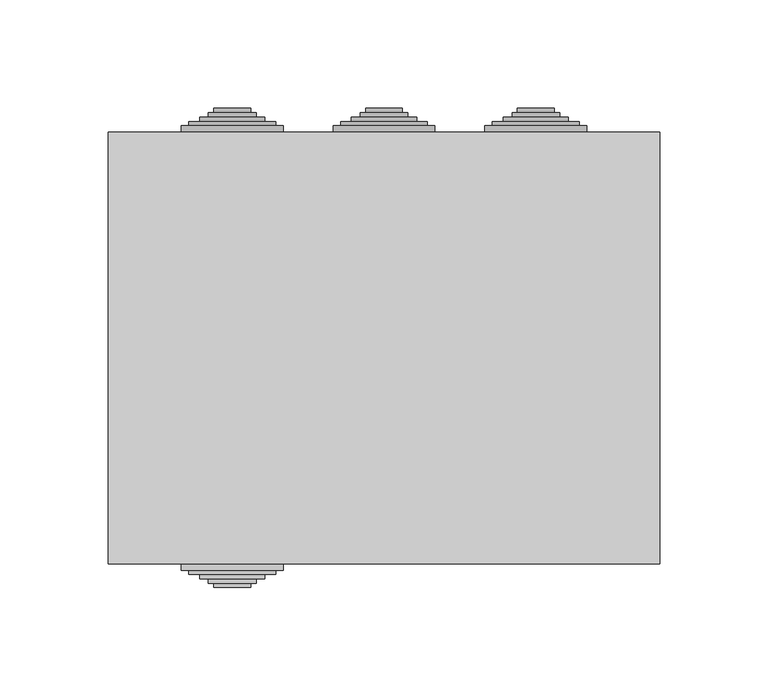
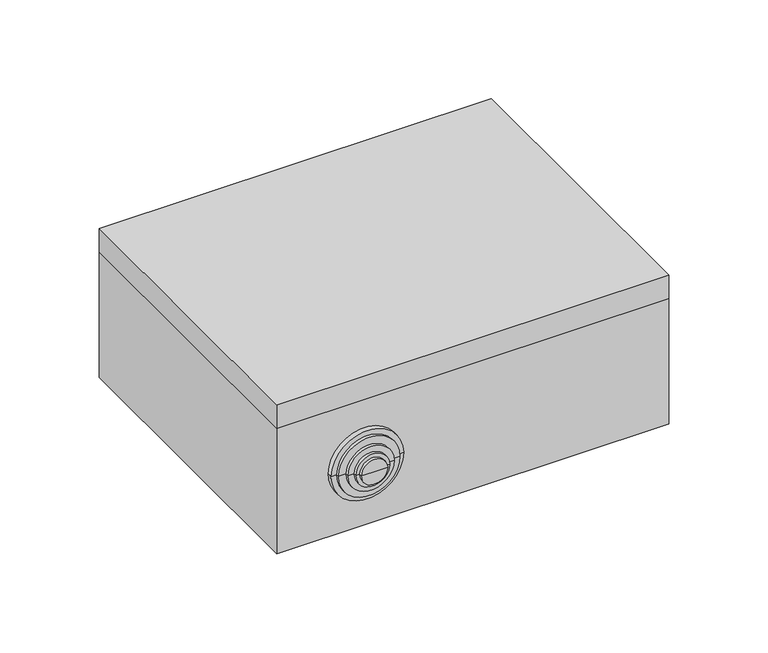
"""IFC4 building model written with IfcOpenShell, lengths in millimetres: cable carrier fitting geometry, КНС_КоробкаОтветвительнаяСКабельнымиВводами_10_IP55_DKC : с 10 кабельными вводами д.32мм, IP55, 240х190х90мм."""

from ifc_helpers import new_model, si_unit, frame, origin, place, context, project, spatial, polyline, circle_curve, faceted_brep, source, transform, mapped, element, save
from ifc_brep_helpers import plane_surface, cylinder_surface, revolved_surface, advanced_brep


def cable_carrier_fitting_17f0b756(model_context):
    return source(origin(), model_context, "Body", "SolidModel", [
        advanced_brep(
        [(-50.0, -97.5, 43.0), (-90.0, -97.5, 43.0), (-93.5, -97.5, 43.0), (-46.5, -97.5, 43.0), (-50.0, -99.5, 43.0), (-90.0, -99.5, 43.0), (-46.5, -99.5, 43.0), (-93.5, -99.5, 43.0), (-46.5, -102.5, 43.0), (-93.5, -102.5, 43.0), (-50.0, -102.5, 43.0), (-90.0, -102.5, 43.0), (-50.0, -104.5, 43.0), (-90.0, -104.5, 43.0), (-55.0, -104.5, 43.0), (-85.0, -104.5, 43.0), (-55.0, -106.5, 43.0), (-85.0, -106.5, 43.0), (-59.0, -106.5, 43.0), (-81.0, -106.5, 43.0), (-59.0, -108.5, 43.0), (-81.0, -108.5, 43.0), (-61.5, -108.5, 43.0), (-78.5, -108.5, 43.0), (-61.5, -110.5, 43.0), (-78.5, -110.5, 43.0), (-70.0, -110.5, 43.0), (-50.0, -90.5, 43.0), (-90.0, -90.5, 43.0), (-70.0, -90.5, 43.0), (-46.5, -95.2491137, 43.0), (-93.5, -95.2491137, 43.0)],
        [
            (0, 1, circle_curve(frame((-70.0, -97.5, 43.0), z_axis=(0.0, 1.0, 0.0), x_axis=(-1.0000000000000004, 0.0, 0.0)), 20.0)),
            (1, 2),
            (2, 3, circle_curve(frame((-70.0, -97.5, 43.0), z_axis=(0.0, -1.0, 0.0), x_axis=(-1.0000000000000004, 0.0, 0.0)), 23.5)),
            (3, 0),
            (1, 0, circle_curve(frame((-70.0, -97.5, 43.0), z_axis=(0.0, 1.0, 0.0), x_axis=(-1.0000000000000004, 0.0, 0.0)), 20.0)),
            (3, 2, circle_curve(frame((-70.0, -97.5, 43.0), z_axis=(0.0, -1.0, 0.0), x_axis=(-1.0000000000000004, 0.0, 0.0)), 23.5)),
            (4, 5, circle_curve(frame((-70.0, -99.5, 43.0), z_axis=(0.0, 1.0, 0.0), x_axis=(-1.0000000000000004, 0.0, 0.0)), 20.0)),
            (5, 1),
            (0, 4),
            (5, 4, circle_curve(frame((-70.0, -99.5, 43.0), z_axis=(0.0, 1.0, 0.0), x_axis=(-1.0000000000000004, 0.0, 0.0)), 20.0)),
            (6, 7, circle_curve(frame((-70.0, -99.5, 43.0), z_axis=(0.0, 1.0, 0.0), x_axis=(-1.0000000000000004, 0.0, 0.0)), 23.5)),
            (7, 5),
            (4, 6),
            (7, 6, circle_curve(frame((-70.0, -99.5, 43.0), z_axis=(0.0, 1.0, 0.0), x_axis=(-1.0000000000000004, 0.0, 0.0)), 23.5)),
            (8, 9, circle_curve(frame((-70.0, -102.5, 43.0), z_axis=(0.0, 1.0, 0.0), x_axis=(-1.0000000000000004, 0.0, 0.0)), 23.5)),
            (9, 7),
            (6, 8),
            (9, 8, circle_curve(frame((-70.0, -102.5, 43.0), z_axis=(0.0, 1.0, 0.0), x_axis=(-1.0000000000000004, 0.0, 0.0)), 23.5)),
            (10, 11, circle_curve(frame((-70.0, -102.5, 43.0), z_axis=(0.0, 1.0, 0.0), x_axis=(-1.0000000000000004, 0.0, 0.0)), 20.0)),
            (11, 9),
            (8, 10),
            (11, 10, circle_curve(frame((-70.0, -102.5, 43.0), z_axis=(0.0, 1.0, 0.0), x_axis=(-1.0000000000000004, 0.0, 0.0)), 20.0)),
            (12, 13, circle_curve(frame((-70.0, -104.5, 43.0), z_axis=(0.0, 1.0, 0.0), x_axis=(-1.0000000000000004, 0.0, 0.0)), 20.0)),
            (13, 11),
            (10, 12),
            (13, 12, circle_curve(frame((-70.0, -104.5, 43.0), z_axis=(0.0, 1.0, 0.0), x_axis=(-1.0000000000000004, 0.0, 0.0)), 20.0)),
            (14, 15, circle_curve(frame((-70.0, -104.5, 43.0), z_axis=(0.0, 1.0, 0.0), x_axis=(-1.0000000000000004, 0.0, 0.0)), 15.0)),
            (15, 13),
            (12, 14),
            (15, 14, circle_curve(frame((-70.0, -104.5, 43.0), z_axis=(0.0, 1.0, 0.0), x_axis=(-1.0000000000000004, 0.0, 0.0)), 15.0)),
            (16, 17, circle_curve(frame((-70.0, -106.5, 43.0), z_axis=(0.0, 1.0, 0.0), x_axis=(-1.0000000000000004, 0.0, 0.0)), 15.0)),
            (17, 15),
            (14, 16),
            (17, 16, circle_curve(frame((-70.0, -106.5, 43.0), z_axis=(0.0, 1.0, 0.0), x_axis=(-1.0000000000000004, 0.0, 0.0)), 15.0)),
            (18, 19, circle_curve(frame((-70.0, -106.5, 43.0), z_axis=(0.0, 1.0, 0.0), x_axis=(-1.0000000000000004, 0.0, 0.0)), 11.0)),
            (19, 17),
            (16, 18),
            (19, 18, circle_curve(frame((-70.0, -106.5, 43.0), z_axis=(0.0, 1.0, 0.0), x_axis=(-1.0000000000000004, 0.0, 0.0)), 11.0)),
            (20, 21, circle_curve(frame((-70.0, -108.5, 43.0), z_axis=(0.0, 1.0, 0.0), x_axis=(-1.0000000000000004, 0.0, 0.0)), 11.0)),
            (21, 19),
            (18, 20),
            (21, 20, circle_curve(frame((-70.0, -108.5, 43.0), z_axis=(0.0, 1.0, 0.0), x_axis=(-1.0000000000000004, 0.0, 0.0)), 11.0)),
            (22, 23, circle_curve(frame((-70.0, -108.5, 43.0), z_axis=(0.0, 1.0, 0.0), x_axis=(-1.0000000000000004, 0.0, 0.0)), 8.5)),
            (23, 21),
            (20, 22),
            (23, 22, circle_curve(frame((-70.0, -108.5, 43.0), z_axis=(0.0, 1.0, 0.0), x_axis=(-1.0000000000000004, 0.0, 0.0)), 8.5)),
            (24, 25, circle_curve(frame((-70.0, -110.5, 43.0), z_axis=(0.0, 1.0, 0.0), x_axis=(-1.0000000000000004, 0.0, 0.0)), 8.5)),
            (25, 23),
            (22, 24),
            (25, 24, circle_curve(frame((-70.0, -110.5, 43.0), z_axis=(0.0, 1.0, 0.0), x_axis=(-1.0000000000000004, 0.0, 0.0)), 8.5)),
            (26, 25),
            (24, 26),
            (27, 28, circle_curve(frame((-70.0, -90.5, 43.0), z_axis=(0.0, 1.0, 0.0), x_axis=(-1.0000000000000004, 0.0, 0.0)), 20.0)),
            (28, 29),
            (29, 27),
            (28, 27, circle_curve(frame((-70.0, -90.5, 43.0), z_axis=(0.0, 1.0, 0.0), x_axis=(-1.0000000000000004, 0.0, 0.0)), 20.0)),
            (30, 31, circle_curve(frame((-70.0, -95.2491137, 43.0), z_axis=(0.0, 1.0, 0.0), x_axis=(-1.0000000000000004, 0.0, 0.0)), 23.5)),
            (31, 28),
            (27, 30),
            (31, 30, circle_curve(frame((-70.0, -95.2491137, 43.0), z_axis=(0.0, 1.0, 0.0), x_axis=(-1.0000000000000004, 0.0, 0.0)), 23.5)),
            (2, 31),
            (30, 3),
        ],
        [
            plane_surface(frame((-70.0, -97.5, 43.0), z_axis=(0.0, -1.0, 0.0), x_axis=(-1.0, 0.0, 0.0))),
            cylinder_surface(frame((-70.0, 1415.5, 43.0), z_axis=(0.0, -1.0000000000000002, 0.0), x_axis=(-1.0000000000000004, 0.0, 0.0)), 20.0),
            plane_surface(frame((-70.0, -99.5, 43.0), z_axis=(0.0, 1.0, 0.0), x_axis=(-1.0, 0.0, 0.0))),
            cylinder_surface(frame((-70.0, 1415.5, 43.0), z_axis=(0.0, -1.0000000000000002, 0.0), x_axis=(-1.0000000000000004, 0.0, 0.0)), 23.5),
            plane_surface(frame((-70.0, -102.5, 43.0), z_axis=(0.0, -1.0, 0.0), x_axis=(-1.0, 0.0, 0.0))),
            plane_surface(frame((-70.0, -104.5, 43.0), z_axis=(0.0, -1.0, 0.0), x_axis=(-1.0, 0.0, 0.0))),
            cylinder_surface(frame((-70.0, 1415.5, 43.0), z_axis=(0.0, -1.0000000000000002, 0.0), x_axis=(-1.0000000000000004, 0.0, 0.0)), 15.0),
            plane_surface(frame((-70.0, -106.5, 43.0), z_axis=(0.0, -1.0, 0.0), x_axis=(-1.0, 0.0, 0.0))),
            cylinder_surface(frame((-70.0, 1415.5, 43.0), z_axis=(0.0, -1.0000000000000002, 0.0), x_axis=(-1.0000000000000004, 0.0, 0.0)), 11.0),
            plane_surface(frame((-70.0, -108.5, 43.0), z_axis=(0.0, -1.0, 0.0), x_axis=(-1.0, 0.0, 0.0))),
            cylinder_surface(frame((-70.0, 1415.5, 43.0), z_axis=(0.0, -1.0000000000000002, 0.0), x_axis=(-1.0000000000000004, 0.0, 0.0)), 8.5),
            plane_surface(frame((-70.0, -110.5, 43.0), z_axis=(0.0, -1.0, 0.0), x_axis=(-1.0, 0.0, 0.0))),
            plane_surface(frame((-70.0, -90.5, 43.0), z_axis=(0.0, 1.0, 0.0), x_axis=(-1.0, 0.0, 0.0))),
            revolved_surface(polyline([(-90.0, -90.5, 43.0), (-93.5, -95.2491137, 43.0)]), (-70.0, 1415.5, 43.0), (0.0, -1.0000000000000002, 0.0)),
        ],
        [
            (0, [[1, 2, 3, 4]]),
            (0, [[5, -4, 6, -2]]),
            (1, [[7, 8, -1, 9]]),
            (1, [[10, -9, -5, -8]]),
            (2, [[11, 12, -7, 13]]),
            (2, [[14, -13, -10, -12]]),
            (3, [[15, 16, -11, 17]]),
            (3, [[18, -17, -14, -16]]),
            (4, [[19, 20, -15, 21]]),
            (4, [[22, -21, -18, -20]]),
            (1, [[23, 24, -19, 25]]),
            (1, [[26, -25, -22, -24]]),
            (5, [[27, 28, -23, 29]]),
            (5, [[30, -29, -26, -28]]),
            (6, [[31, 32, -27, 33]]),
            (6, [[34, -33, -30, -32]]),
            (7, [[35, 36, -31, 37]]),
            (7, [[38, -37, -34, -36]]),
            (8, [[39, 40, -35, 41]]),
            (8, [[42, -41, -38, -40]]),
            (9, [[43, 44, -39, 45]]),
            (9, [[46, -45, -42, -44]]),
            (10, [[47, 48, -43, 49]]),
            (10, [[50, -49, -46, -48]]),
            (11, [[51, -47, 52]]),
            (11, [[-52, -50, -51]]),
            (12, [[53, 54, 55]]),
            (12, [[56, -55, -54]]),
            (13, [[57, 58, -53, 59]]),
            (13, [[60, -59, -56, -58]]),
            (3, [[-3, 61, -57, 62]]),
            (3, [[-6, -62, -60, -61]]),
        ],
    ),
        advanced_brep(
        [(50.0, 97.5, 43.0), (90.0, 97.5, 43.0), (93.5, 97.5, 43.0), (46.5, 97.5, 43.0), (50.0, 99.5, 43.0), (90.0, 99.5, 43.0), (46.5, 99.5, 43.0), (93.5, 99.5, 43.0), (46.5, 102.5, 43.0), (93.5, 102.5, 43.0), (50.0, 102.5, 43.0), (90.0, 102.5, 43.0), (50.0, 104.5, 43.0), (90.0, 104.5, 43.0), (55.0, 104.5, 43.0), (85.0, 104.5, 43.0), (55.0, 106.5, 43.0), (85.0, 106.5, 43.0), (59.0, 106.5, 43.0), (81.0, 106.5, 43.0), (59.0, 108.5, 43.0), (81.0, 108.5, 43.0), (61.5, 108.5, 43.0), (78.5, 108.5, 43.0), (61.5, 110.5, 43.0), (78.5, 110.5, 43.0), (70.0, 110.5, 43.0), (50.0, 90.5, 43.0), (90.0, 90.5, 43.0), (70.0, 90.5, 43.0), (46.5, 95.2491137, 43.0), (93.5, 95.2491137, 43.0)],
        [
            (0, 1, circle_curve(frame((70.0, 97.5, 43.0), z_axis=(0.0, -1.0, 0.0), x_axis=(1.0, 0.0, 0.0)), 20.0)),
            (1, 2),
            (2, 3, circle_curve(frame((70.0, 97.5, 43.0), z_axis=(0.0, 1.0, 0.0), x_axis=(1.0, 0.0, 0.0)), 23.5)),
            (3, 0),
            (1, 0, circle_curve(frame((70.0, 97.5, 43.0), z_axis=(0.0, -1.0, 0.0), x_axis=(1.0, 0.0, 0.0)), 20.0)),
            (3, 2, circle_curve(frame((70.0, 97.5, 43.0), z_axis=(0.0, 1.0, 0.0), x_axis=(1.0, 0.0, 0.0)), 23.5)),
            (4, 5, circle_curve(frame((70.0, 99.5, 43.0), z_axis=(0.0, -1.0, 0.0), x_axis=(1.0, 0.0, 0.0)), 20.0)),
            (5, 1),
            (0, 4),
            (5, 4, circle_curve(frame((70.0, 99.5, 43.0), z_axis=(0.0, -1.0, 0.0), x_axis=(1.0, 0.0, 0.0)), 20.0)),
            (6, 7, circle_curve(frame((70.0, 99.5, 43.0), z_axis=(0.0, -1.0, 0.0), x_axis=(1.0, 0.0, 0.0)), 23.5)),
            (7, 5),
            (4, 6),
            (7, 6, circle_curve(frame((70.0, 99.5, 43.0), z_axis=(0.0, -1.0, 0.0), x_axis=(1.0, 0.0, 0.0)), 23.5)),
            (8, 9, circle_curve(frame((70.0, 102.5, 43.0), z_axis=(0.0, -1.0, 0.0), x_axis=(1.0, 0.0, 0.0)), 23.5)),
            (9, 7),
            (6, 8),
            (9, 8, circle_curve(frame((70.0, 102.5, 43.0), z_axis=(0.0, -1.0, 0.0), x_axis=(1.0, 0.0, 0.0)), 23.5)),
            (10, 11, circle_curve(frame((70.0, 102.5, 43.0), z_axis=(0.0, -1.0, 0.0), x_axis=(1.0, 0.0, 0.0)), 20.0)),
            (11, 9),
            (8, 10),
            (11, 10, circle_curve(frame((70.0, 102.5, 43.0), z_axis=(0.0, -1.0, 0.0), x_axis=(1.0, 0.0, 0.0)), 20.0)),
            (12, 13, circle_curve(frame((70.0, 104.5, 43.0), z_axis=(0.0, -1.0, 0.0), x_axis=(1.0, 0.0, 0.0)), 20.0)),
            (13, 11),
            (10, 12),
            (13, 12, circle_curve(frame((70.0, 104.5, 43.0), z_axis=(0.0, -1.0, 0.0), x_axis=(1.0, 0.0, 0.0)), 20.0)),
            (14, 15, circle_curve(frame((70.0, 104.5, 43.0), z_axis=(0.0, -1.0, 0.0), x_axis=(1.0, 0.0, 0.0)), 15.0)),
            (15, 13),
            (12, 14),
            (15, 14, circle_curve(frame((70.0, 104.5, 43.0), z_axis=(0.0, -1.0, 0.0), x_axis=(1.0, 0.0, 0.0)), 15.0)),
            (16, 17, circle_curve(frame((70.0, 106.5, 43.0), z_axis=(0.0, -1.0, 0.0), x_axis=(1.0, 0.0, 0.0)), 15.0)),
            (17, 15),
            (14, 16),
            (17, 16, circle_curve(frame((70.0, 106.5, 43.0), z_axis=(0.0, -1.0, 0.0), x_axis=(1.0, 0.0, 0.0)), 15.0)),
            (18, 19, circle_curve(frame((70.0, 106.5, 43.0), z_axis=(0.0, -1.0, 0.0), x_axis=(1.0, 0.0, 0.0)), 11.0)),
            (19, 17),
            (16, 18),
            (19, 18, circle_curve(frame((70.0, 106.5, 43.0), z_axis=(0.0, -1.0, 0.0), x_axis=(1.0, 0.0, 0.0)), 11.0)),
            (20, 21, circle_curve(frame((70.0, 108.5, 43.0), z_axis=(0.0, -1.0, 0.0), x_axis=(1.0, 0.0, 0.0)), 11.0)),
            (21, 19),
            (18, 20),
            (21, 20, circle_curve(frame((70.0, 108.5, 43.0), z_axis=(0.0, -1.0, 0.0), x_axis=(1.0, 0.0, 0.0)), 11.0)),
            (22, 23, circle_curve(frame((70.0, 108.5, 43.0), z_axis=(0.0, -1.0, 0.0), x_axis=(1.0, 0.0, 0.0)), 8.5)),
            (23, 21),
            (20, 22),
            (23, 22, circle_curve(frame((70.0, 108.5, 43.0), z_axis=(0.0, -1.0, 0.0), x_axis=(1.0, 0.0, 0.0)), 8.5)),
            (24, 25, circle_curve(frame((70.0, 110.5, 43.0), z_axis=(0.0, -1.0, 0.0), x_axis=(1.0, 0.0, 0.0)), 8.5)),
            (25, 23),
            (22, 24),
            (25, 24, circle_curve(frame((70.0, 110.5, 43.0), z_axis=(0.0, -1.0, 0.0), x_axis=(1.0, 0.0, 0.0)), 8.5)),
            (26, 25),
            (24, 26),
            (27, 28, circle_curve(frame((70.0, 90.5, 43.0), z_axis=(0.0, -1.0, 0.0), x_axis=(1.0, 0.0, 0.0)), 20.0)),
            (28, 29),
            (29, 27),
            (28, 27, circle_curve(frame((70.0, 90.5, 43.0), z_axis=(0.0, -1.0, 0.0), x_axis=(1.0, 0.0, 0.0)), 20.0)),
            (30, 31, circle_curve(frame((70.0, 95.2491137, 43.0), z_axis=(0.0, -1.0, 0.0), x_axis=(1.0, 0.0, 0.0)), 23.5)),
            (31, 28),
            (27, 30),
            (31, 30, circle_curve(frame((70.0, 95.2491137, 43.0), z_axis=(0.0, -1.0, 0.0), x_axis=(1.0, 0.0, 0.0)), 23.5)),
            (2, 31),
            (30, 3),
        ],
        [
            plane_surface(frame((70.0, 97.5, 43.0), z_axis=(0.0, 1.0, 0.0), x_axis=(1.0, 0.0, 0.0))),
            cylinder_surface(frame((70.0, -1415.5, 43.0), z_axis=(0.0, 1.0, 0.0), x_axis=(1.0, 0.0, 0.0)), 20.0),
            plane_surface(frame((70.0, 99.5, 43.0), z_axis=(0.0, -1.0, 0.0), x_axis=(1.0, 0.0, 0.0))),
            cylinder_surface(frame((70.0, -1415.5, 43.0), z_axis=(0.0, 1.0, 0.0), x_axis=(1.0, 0.0, 0.0)), 23.5),
            plane_surface(frame((70.0, 102.5, 43.0), z_axis=(0.0, 1.0, 0.0), x_axis=(1.0, 0.0, 0.0))),
            plane_surface(frame((70.0, 104.5, 43.0), z_axis=(0.0, 1.0, 0.0), x_axis=(1.0, 0.0, 0.0))),
            cylinder_surface(frame((70.0, -1415.5, 43.0), z_axis=(0.0, 1.0, 0.0), x_axis=(1.0, 0.0, 0.0)), 15.0),
            plane_surface(frame((70.0, 106.5, 43.0), z_axis=(0.0, 1.0, 0.0), x_axis=(1.0, 0.0, 0.0))),
            cylinder_surface(frame((70.0, -1415.5, 43.0), z_axis=(0.0, 1.0, 0.0), x_axis=(1.0, 0.0, 0.0)), 11.0),
            plane_surface(frame((70.0, 108.5, 43.0), z_axis=(0.0, 1.0, 0.0), x_axis=(1.0, 0.0, 0.0))),
            cylinder_surface(frame((70.0, -1415.5, 43.0), z_axis=(0.0, 1.0, 0.0), x_axis=(1.0, 0.0, 0.0)), 8.5),
            plane_surface(frame((70.0, 110.5, 43.0), z_axis=(0.0, 1.0, 0.0), x_axis=(1.0, 0.0, 0.0))),
            plane_surface(frame((70.0, 90.5, 43.0), z_axis=(0.0, -1.0, 0.0), x_axis=(1.0, 0.0, 0.0))),
            revolved_surface(polyline([(90.0, 90.5, 43.0), (93.5, 95.2491137, 43.0)]), (70.0, -1415.5, 43.0), (0.0, 1.0, 0.0)),
        ],
        [
            (0, [[1, 2, 3, 4]]),
            (0, [[5, -4, 6, -2]]),
            (1, [[7, 8, -1, 9]]),
            (1, [[10, -9, -5, -8]]),
            (2, [[11, 12, -7, 13]]),
            (2, [[14, -13, -10, -12]]),
            (3, [[15, 16, -11, 17]]),
            (3, [[18, -17, -14, -16]]),
            (4, [[19, 20, -15, 21]]),
            (4, [[22, -21, -18, -20]]),
            (1, [[23, 24, -19, 25]]),
            (1, [[26, -25, -22, -24]]),
            (5, [[27, 28, -23, 29]]),
            (5, [[30, -29, -26, -28]]),
            (6, [[31, 32, -27, 33]]),
            (6, [[34, -33, -30, -32]]),
            (7, [[35, 36, -31, 37]]),
            (7, [[38, -37, -34, -36]]),
            (8, [[39, 40, -35, 41]]),
            (8, [[42, -41, -38, -40]]),
            (9, [[43, 44, -39, 45]]),
            (9, [[46, -45, -42, -44]]),
            (10, [[47, 48, -43, 49]]),
            (10, [[50, -49, -46, -48]]),
            (11, [[51, -47, 52]]),
            (11, [[-52, -50, -51]]),
            (12, [[53, 54, 55]]),
            (12, [[56, -55, -54]]),
            (13, [[57, 58, -53, 59]]),
            (13, [[60, -59, -56, -58]]),
            (3, [[-3, 61, -57, 62]]),
            (3, [[-6, -62, -60, -61]]),
        ],
    ),
        advanced_brep(
        [(-20.0, 97.5, 43.0), (20.0, 97.5, 43.0), (23.5, 97.5, 43.0), (-23.5, 97.5, 43.0), (-20.0, 99.5, 43.0), (20.0, 99.5, 43.0), (-23.5, 99.5, 43.0), (23.5, 99.5, 43.0), (-23.5, 102.5, 43.0), (23.5, 102.5, 43.0), (-20.0, 102.5, 43.0), (20.0, 102.5, 43.0), (-20.0, 104.5, 43.0), (20.0, 104.5, 43.0), (-15.0, 104.5, 43.0), (15.0, 104.5, 43.0), (-15.0, 106.5, 43.0), (15.0, 106.5, 43.0), (-11.0, 106.5, 43.0), (11.0, 106.5, 43.0), (-11.0, 108.5, 43.0), (11.0, 108.5, 43.0), (-8.5, 108.5, 43.0), (8.5, 108.5, 43.0), (-8.5, 110.5, 43.0), (8.5, 110.5, 43.0), (0.0, 110.5, 43.0), (-20.0, 90.5, 43.0), (20.0, 90.5, 43.0), (0.0, 90.5, 43.0), (-23.5, 95.2491137, 43.0), (23.5, 95.2491137, 43.0)],
        [
            (0, 1, circle_curve(frame((0.0, 97.5, 43.0), z_axis=(0.0, -1.0, 0.0), x_axis=(1.0, 0.0, 0.0)), 20.0)),
            (1, 2),
            (2, 3, circle_curve(frame((0.0, 97.5, 43.0), z_axis=(0.0, 1.0, 0.0), x_axis=(1.0, 0.0, 0.0)), 23.5)),
            (3, 0),
            (1, 0, circle_curve(frame((0.0, 97.5, 43.0), z_axis=(0.0, -1.0, 0.0), x_axis=(1.0, 0.0, 0.0)), 20.0)),
            (3, 2, circle_curve(frame((0.0, 97.5, 43.0), z_axis=(0.0, 1.0, 0.0), x_axis=(1.0, 0.0, 0.0)), 23.5)),
            (4, 5, circle_curve(frame((0.0, 99.5, 43.0), z_axis=(0.0, -1.0, 0.0), x_axis=(1.0, 0.0, 0.0)), 20.0)),
            (5, 1),
            (0, 4),
            (5, 4, circle_curve(frame((0.0, 99.5, 43.0), z_axis=(0.0, -1.0, 0.0), x_axis=(1.0, 0.0, 0.0)), 20.0)),
            (6, 7, circle_curve(frame((0.0, 99.5, 43.0), z_axis=(0.0, -1.0, 0.0), x_axis=(1.0, 0.0, 0.0)), 23.5)),
            (7, 5),
            (4, 6),
            (7, 6, circle_curve(frame((0.0, 99.5, 43.0), z_axis=(0.0, -1.0, 0.0), x_axis=(1.0, 0.0, 0.0)), 23.5)),
            (8, 9, circle_curve(frame((0.0, 102.5, 43.0), z_axis=(0.0, -1.0, 0.0), x_axis=(1.0, 0.0, 0.0)), 23.5)),
            (9, 7),
            (6, 8),
            (9, 8, circle_curve(frame((0.0, 102.5, 43.0), z_axis=(0.0, -1.0, 0.0), x_axis=(1.0, 0.0, 0.0)), 23.5)),
            (10, 11, circle_curve(frame((0.0, 102.5, 43.0), z_axis=(0.0, -1.0, 0.0), x_axis=(1.0, 0.0, 0.0)), 20.0)),
            (11, 9),
            (8, 10),
            (11, 10, circle_curve(frame((0.0, 102.5, 43.0), z_axis=(0.0, -1.0, 0.0), x_axis=(1.0, 0.0, 0.0)), 20.0)),
            (12, 13, circle_curve(frame((0.0, 104.5, 43.0), z_axis=(0.0, -1.0, 0.0), x_axis=(1.0, 0.0, 0.0)), 20.0)),
            (13, 11),
            (10, 12),
            (13, 12, circle_curve(frame((0.0, 104.5, 43.0), z_axis=(0.0, -1.0, 0.0), x_axis=(1.0, 0.0, 0.0)), 20.0)),
            (14, 15, circle_curve(frame((0.0, 104.5, 43.0), z_axis=(0.0, -1.0, 0.0), x_axis=(1.0, 0.0, 0.0)), 15.0)),
            (15, 13),
            (12, 14),
            (15, 14, circle_curve(frame((0.0, 104.5, 43.0), z_axis=(0.0, -1.0, 0.0), x_axis=(1.0, 0.0, 0.0)), 15.0)),
            (16, 17, circle_curve(frame((0.0, 106.5, 43.0), z_axis=(0.0, -1.0, 0.0), x_axis=(1.0, 0.0, 0.0)), 15.0)),
            (17, 15),
            (14, 16),
            (17, 16, circle_curve(frame((0.0, 106.5, 43.0), z_axis=(0.0, -1.0, 0.0), x_axis=(1.0, 0.0, 0.0)), 15.0)),
            (18, 19, circle_curve(frame((0.0, 106.5, 43.0), z_axis=(0.0, -1.0, 0.0), x_axis=(1.0, 0.0, 0.0)), 11.0)),
            (19, 17),
            (16, 18),
            (19, 18, circle_curve(frame((0.0, 106.5, 43.0), z_axis=(0.0, -1.0, 0.0), x_axis=(1.0, 0.0, 0.0)), 11.0)),
            (20, 21, circle_curve(frame((0.0, 108.5, 43.0), z_axis=(0.0, -1.0, 0.0), x_axis=(1.0, 0.0, 0.0)), 11.0)),
            (21, 19),
            (18, 20),
            (21, 20, circle_curve(frame((0.0, 108.5, 43.0), z_axis=(0.0, -1.0, 0.0), x_axis=(1.0, 0.0, 0.0)), 11.0)),
            (22, 23, circle_curve(frame((0.0, 108.5, 43.0), z_axis=(0.0, -1.0, 0.0), x_axis=(1.0, 0.0, 0.0)), 8.5)),
            (23, 21),
            (20, 22),
            (23, 22, circle_curve(frame((0.0, 108.5, 43.0), z_axis=(0.0, -1.0, 0.0), x_axis=(1.0, 0.0, 0.0)), 8.5)),
            (24, 25, circle_curve(frame((0.0, 110.5, 43.0), z_axis=(0.0, -1.0, 0.0), x_axis=(1.0, 0.0, 0.0)), 8.5)),
            (25, 23),
            (22, 24),
            (25, 24, circle_curve(frame((0.0, 110.5, 43.0), z_axis=(0.0, -1.0, 0.0), x_axis=(1.0, 0.0, 0.0)), 8.5)),
            (26, 25),
            (24, 26),
            (27, 28, circle_curve(frame((0.0, 90.5, 43.0), z_axis=(0.0, -1.0, 0.0), x_axis=(1.0, 0.0, 0.0)), 20.0)),
            (28, 29),
            (29, 27),
            (28, 27, circle_curve(frame((0.0, 90.5, 43.0), z_axis=(0.0, -1.0, 0.0), x_axis=(1.0, 0.0, 0.0)), 20.0)),
            (30, 31, circle_curve(frame((0.0, 95.2491137, 43.0), z_axis=(0.0, -1.0, 0.0), x_axis=(1.0, 0.0, 0.0)), 23.5)),
            (31, 28),
            (27, 30),
            (31, 30, circle_curve(frame((0.0, 95.2491137, 43.0), z_axis=(0.0, -1.0, 0.0), x_axis=(1.0, 0.0, 0.0)), 23.5)),
            (2, 31),
            (30, 3),
        ],
        [
            plane_surface(frame((0.0, 97.5, 43.0), z_axis=(0.0, 1.0, 0.0), x_axis=(1.0, 0.0, 0.0))),
            cylinder_surface(frame((0.0, -1415.5, 43.0), z_axis=(0.0, 1.0, 0.0), x_axis=(1.0, 0.0, 0.0)), 20.0),
            plane_surface(frame((0.0, 99.5, 43.0), z_axis=(0.0, -1.0, 0.0), x_axis=(1.0, 0.0, 0.0))),
            cylinder_surface(frame((0.0, -1415.5, 43.0), z_axis=(0.0, 1.0, 0.0), x_axis=(1.0, 0.0, 0.0)), 23.5),
            plane_surface(frame((0.0, 102.5, 43.0), z_axis=(0.0, 1.0, 0.0), x_axis=(1.0, 0.0, 0.0))),
            plane_surface(frame((0.0, 104.5, 43.0), z_axis=(0.0, 1.0, 0.0), x_axis=(1.0, 0.0, 0.0))),
            cylinder_surface(frame((0.0, -1415.5, 43.0), z_axis=(0.0, 1.0, 0.0), x_axis=(1.0, 0.0, 0.0)), 15.0),
            plane_surface(frame((0.0, 106.5, 43.0), z_axis=(0.0, 1.0, 0.0), x_axis=(1.0, 0.0, 0.0))),
            cylinder_surface(frame((0.0, -1415.5, 43.0), z_axis=(0.0, 1.0, 0.0), x_axis=(1.0, 0.0, 0.0)), 11.0),
            plane_surface(frame((0.0, 108.5, 43.0), z_axis=(0.0, 1.0, 0.0), x_axis=(1.0, 0.0, 0.0))),
            cylinder_surface(frame((0.0, -1415.5, 43.0), z_axis=(0.0, 1.0, 0.0), x_axis=(1.0, 0.0, 0.0)), 8.5),
            plane_surface(frame((0.0, 110.5, 43.0), z_axis=(0.0, 1.0, 0.0), x_axis=(1.0, 0.0, 0.0))),
            plane_surface(frame((0.0, 90.5, 43.0), z_axis=(0.0, -1.0, 0.0), x_axis=(1.0, 0.0, 0.0))),
            revolved_surface(polyline([(20.0, 90.5, 43.0), (23.5, 95.2491137, 43.0)]), (0.0, -1415.5, 43.0), (0.0, 1.0, 0.0)),
        ],
        [
            (0, [[1, 2, 3, 4]]),
            (0, [[5, -4, 6, -2]]),
            (1, [[7, 8, -1, 9]]),
            (1, [[10, -9, -5, -8]]),
            (2, [[11, 12, -7, 13]]),
            (2, [[14, -13, -10, -12]]),
            (3, [[15, 16, -11, 17]]),
            (3, [[18, -17, -14, -16]]),
            (4, [[19, 20, -15, 21]]),
            (4, [[22, -21, -18, -20]]),
            (1, [[23, 24, -19, 25]]),
            (1, [[26, -25, -22, -24]]),
            (5, [[27, 28, -23, 29]]),
            (5, [[30, -29, -26, -28]]),
            (6, [[31, 32, -27, 33]]),
            (6, [[34, -33, -30, -32]]),
            (7, [[35, 36, -31, 37]]),
            (7, [[38, -37, -34, -36]]),
            (8, [[39, 40, -35, 41]]),
            (8, [[42, -41, -38, -40]]),
            (9, [[43, 44, -39, 45]]),
            (9, [[46, -45, -42, -44]]),
            (10, [[47, 48, -43, 49]]),
            (10, [[50, -49, -46, -48]]),
            (11, [[51, -47, 52]]),
            (11, [[-52, -50, -51]]),
            (12, [[53, 54, 55]]),
            (12, [[56, -55, -54]]),
            (13, [[57, 58, -53, 59]]),
            (13, [[60, -59, -56, -58]]),
            (3, [[-3, 61, -57, 62]]),
            (3, [[-6, -62, -60, -61]]),
        ],
    ),
        advanced_brep(
        [(-90.0, 97.5, 43.0), (-50.0, 97.5, 43.0), (-46.5, 97.5, 43.0), (-93.5, 97.5, 43.0), (-90.0, 99.5, 43.0), (-50.0, 99.5, 43.0), (-93.5, 99.5, 43.0), (-46.5, 99.5, 43.0), (-93.5, 102.5, 43.0), (-46.5, 102.5, 43.0), (-90.0, 102.5, 43.0), (-50.0, 102.5, 43.0), (-90.0, 104.5, 43.0), (-50.0, 104.5, 43.0), (-85.0, 104.5, 43.0), (-55.0, 104.5, 43.0), (-85.0, 106.5, 43.0), (-55.0, 106.5, 43.0), (-81.0, 106.5, 43.0), (-59.0, 106.5, 43.0), (-81.0, 108.5, 43.0), (-59.0, 108.5, 43.0), (-78.5, 108.5, 43.0), (-61.5, 108.5, 43.0), (-78.5, 110.5, 43.0), (-61.5, 110.5, 43.0), (-70.0, 110.5, 43.0), (-90.0, 90.5, 43.0), (-50.0, 90.5, 43.0), (-70.0, 90.5, 43.0), (-93.5, 95.2491137, 43.0), (-46.5, 95.2491137, 43.0)],
        [
            (0, 1, circle_curve(frame((-70.0, 97.5, 43.0), z_axis=(0.0, -1.0, 0.0), x_axis=(1.0000000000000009, 0.0, 0.0)), 20.0)),
            (1, 2),
            (2, 3, circle_curve(frame((-70.0, 97.5, 43.0), z_axis=(0.0, 1.0, 0.0), x_axis=(1.0000000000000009, 0.0, 0.0)), 23.5)),
            (3, 0),
            (1, 0, circle_curve(frame((-70.0, 97.5, 43.0), z_axis=(0.0, -1.0, 0.0), x_axis=(1.0000000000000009, 0.0, 0.0)), 20.0)),
            (3, 2, circle_curve(frame((-70.0, 97.5, 43.0), z_axis=(0.0, 1.0, 0.0), x_axis=(1.0000000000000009, 0.0, 0.0)), 23.5)),
            (4, 5, circle_curve(frame((-70.0, 99.5, 43.0), z_axis=(0.0, -1.0, 0.0), x_axis=(1.0000000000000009, 0.0, 0.0)), 20.0)),
            (5, 1),
            (0, 4),
            (5, 4, circle_curve(frame((-70.0, 99.5, 43.0), z_axis=(0.0, -1.0, 0.0), x_axis=(1.0000000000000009, 0.0, 0.0)), 20.0)),
            (6, 7, circle_curve(frame((-70.0, 99.5, 43.0), z_axis=(0.0, -1.0, 0.0), x_axis=(1.0000000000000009, 0.0, 0.0)), 23.5)),
            (7, 5),
            (4, 6),
            (7, 6, circle_curve(frame((-70.0, 99.5, 43.0), z_axis=(0.0, -1.0, 0.0), x_axis=(1.0000000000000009, 0.0, 0.0)), 23.5)),
            (8, 9, circle_curve(frame((-70.0, 102.5, 43.0), z_axis=(0.0, -1.0, 0.0), x_axis=(1.0000000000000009, 0.0, 0.0)), 23.5)),
            (9, 7),
            (6, 8),
            (9, 8, circle_curve(frame((-70.0, 102.5, 43.0), z_axis=(0.0, -1.0, 0.0), x_axis=(1.0000000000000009, 0.0, 0.0)), 23.5)),
            (10, 11, circle_curve(frame((-70.0, 102.5, 43.0), z_axis=(0.0, -1.0, 0.0), x_axis=(1.0000000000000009, 0.0, 0.0)), 20.0)),
            (11, 9),
            (8, 10),
            (11, 10, circle_curve(frame((-70.0, 102.5, 43.0), z_axis=(0.0, -1.0, 0.0), x_axis=(1.0000000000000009, 0.0, 0.0)), 20.0)),
            (12, 13, circle_curve(frame((-70.0, 104.5, 43.0), z_axis=(0.0, -1.0, 0.0), x_axis=(1.0000000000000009, 0.0, 0.0)), 20.0)),
            (13, 11),
            (10, 12),
            (13, 12, circle_curve(frame((-70.0, 104.5, 43.0), z_axis=(0.0, -1.0, 0.0), x_axis=(1.0000000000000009, 0.0, 0.0)), 20.0)),
            (14, 15, circle_curve(frame((-70.0, 104.5, 43.0), z_axis=(0.0, -1.0, 0.0), x_axis=(1.0000000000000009, 0.0, 0.0)), 15.0)),
            (15, 13),
            (12, 14),
            (15, 14, circle_curve(frame((-70.0, 104.5, 43.0), z_axis=(0.0, -1.0, 0.0), x_axis=(1.0000000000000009, 0.0, 0.0)), 15.0)),
            (16, 17, circle_curve(frame((-70.0, 106.5, 43.0), z_axis=(0.0, -1.0, 0.0), x_axis=(1.0000000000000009, 0.0, 0.0)), 15.0)),
            (17, 15),
            (14, 16),
            (17, 16, circle_curve(frame((-70.0, 106.5, 43.0), z_axis=(0.0, -1.0, 0.0), x_axis=(1.0000000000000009, 0.0, 0.0)), 15.0)),
            (18, 19, circle_curve(frame((-70.0, 106.5, 43.0), z_axis=(0.0, -1.0, 0.0), x_axis=(1.0000000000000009, 0.0, 0.0)), 11.0)),
            (19, 17),
            (16, 18),
            (19, 18, circle_curve(frame((-70.0, 106.5, 43.0), z_axis=(0.0, -1.0, 0.0), x_axis=(1.0000000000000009, 0.0, 0.0)), 11.0)),
            (20, 21, circle_curve(frame((-70.0, 108.5, 43.0), z_axis=(0.0, -1.0, 0.0), x_axis=(1.0000000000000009, 0.0, 0.0)), 11.0)),
            (21, 19),
            (18, 20),
            (21, 20, circle_curve(frame((-70.0, 108.5, 43.0), z_axis=(0.0, -1.0, 0.0), x_axis=(1.0000000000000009, 0.0, 0.0)), 11.0)),
            (22, 23, circle_curve(frame((-70.0, 108.5, 43.0), z_axis=(0.0, -1.0, 0.0), x_axis=(1.0000000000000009, 0.0, 0.0)), 8.5)),
            (23, 21),
            (20, 22),
            (23, 22, circle_curve(frame((-70.0, 108.5, 43.0), z_axis=(0.0, -1.0, 0.0), x_axis=(1.0000000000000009, 0.0, 0.0)), 8.5)),
            (24, 25, circle_curve(frame((-70.0, 110.5, 43.0), z_axis=(0.0, -1.0, 0.0), x_axis=(1.0000000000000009, 0.0, 0.0)), 8.5)),
            (25, 23),
            (22, 24),
            (25, 24, circle_curve(frame((-70.0, 110.5, 43.0), z_axis=(0.0, -1.0, 0.0), x_axis=(1.0000000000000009, 0.0, 0.0)), 8.5)),
            (26, 25),
            (24, 26),
            (27, 28, circle_curve(frame((-70.0, 90.5, 43.0), z_axis=(0.0, -1.0, 0.0), x_axis=(1.0000000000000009, 0.0, 0.0)), 20.0)),
            (28, 29),
            (29, 27),
            (28, 27, circle_curve(frame((-70.0, 90.5, 43.0), z_axis=(0.0, -1.0, 0.0), x_axis=(1.0000000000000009, 0.0, 0.0)), 20.0)),
            (30, 31, circle_curve(frame((-70.0, 95.2491137, 43.0), z_axis=(0.0, -1.0, 0.0), x_axis=(1.0000000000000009, 0.0, 0.0)), 23.5)),
            (31, 28),
            (27, 30),
            (31, 30, circle_curve(frame((-70.0, 95.2491137, 43.0), z_axis=(0.0, -1.0, 0.0), x_axis=(1.0000000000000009, 0.0, 0.0)), 23.5)),
            (2, 31),
            (30, 3),
        ],
        [
            plane_surface(frame((-70.0, 97.5, 43.0), z_axis=(0.0, 1.0, 0.0), x_axis=(1.0, 0.0, 0.0))),
            cylinder_surface(frame((-70.0, -1415.5, 43.0), z_axis=(0.0, 1.0000000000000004, 0.0), x_axis=(1.0000000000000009, 0.0, 0.0)), 20.0),
            plane_surface(frame((-70.0, 99.5, 43.0), z_axis=(0.0, -1.0, 0.0), x_axis=(1.0, 0.0, 0.0))),
            cylinder_surface(frame((-70.0, -1415.5, 43.0), z_axis=(0.0, 1.0000000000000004, 0.0), x_axis=(1.0000000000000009, 0.0, 0.0)), 23.5),
            plane_surface(frame((-70.0, 102.5, 43.0), z_axis=(0.0, 1.0, 0.0), x_axis=(1.0, 0.0, 0.0))),
            plane_surface(frame((-70.0, 104.5, 43.0), z_axis=(0.0, 1.0, 0.0), x_axis=(1.0, 0.0, 0.0))),
            cylinder_surface(frame((-70.0, -1415.5, 43.0), z_axis=(0.0, 1.0000000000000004, 0.0), x_axis=(1.0000000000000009, 0.0, 0.0)), 15.0),
            plane_surface(frame((-70.0, 106.5, 43.0), z_axis=(0.0, 1.0, 0.0), x_axis=(1.0, 0.0, 0.0))),
            cylinder_surface(frame((-70.0, -1415.5, 43.0), z_axis=(0.0, 1.0000000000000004, 0.0), x_axis=(1.0000000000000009, 0.0, 0.0)), 11.0),
            plane_surface(frame((-70.0, 108.5, 43.0), z_axis=(0.0, 1.0, 0.0), x_axis=(1.0, 0.0, 0.0))),
            cylinder_surface(frame((-70.0, -1415.5, 43.0), z_axis=(0.0, 1.0000000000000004, 0.0), x_axis=(1.0000000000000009, 0.0, 0.0)), 8.5),
            plane_surface(frame((-70.0, 110.5, 43.0), z_axis=(0.0, 1.0, 0.0), x_axis=(1.0, 0.0, 0.0))),
            plane_surface(frame((-70.0, 90.5, 43.0), z_axis=(0.0, -1.0, 0.0), x_axis=(1.0, 0.0, 0.0))),
            revolved_surface(polyline([(-50.0, 90.5, 43.0), (-46.5, 95.2491137, 43.0)]), (-70.0, -1415.5, 43.0), (0.0, 1.0000000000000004, 0.0)),
        ],
        [
            (0, [[1, 2, 3, 4]]),
            (0, [[5, -4, 6, -2]]),
            (1, [[7, 8, -1, 9]]),
            (1, [[10, -9, -5, -8]]),
            (2, [[11, 12, -7, 13]]),
            (2, [[14, -13, -10, -12]]),
            (3, [[15, 16, -11, 17]]),
            (3, [[18, -17, -14, -16]]),
            (4, [[19, 20, -15, 21]]),
            (4, [[22, -21, -18, -20]]),
            (1, [[23, 24, -19, 25]]),
            (1, [[26, -25, -22, -24]]),
            (5, [[27, 28, -23, 29]]),
            (5, [[30, -29, -26, -28]]),
            (6, [[31, 32, -27, 33]]),
            (6, [[34, -33, -30, -32]]),
            (7, [[35, 36, -31, 37]]),
            (7, [[38, -37, -34, -36]]),
            (8, [[39, 40, -35, 41]]),
            (8, [[42, -41, -38, -40]]),
            (9, [[43, 44, -39, 45]]),
            (9, [[46, -45, -42, -44]]),
            (10, [[47, 48, -43, 49]]),
            (10, [[50, -49, -46, -48]]),
            (11, [[51, -47, 52]]),
            (11, [[-52, -50, -51]]),
            (12, [[53, 54, 55]]),
            (12, [[56, -55, -54]]),
            (13, [[57, 58, -53, 59]]),
            (13, [[60, -59, -56, -58]]),
            (3, [[-3, 61, -57, 62]]),
            (3, [[-6, -62, -60, -61]]),
        ],
    ),
        faceted_brep([(127.0, 99.5, 102.0), (-127.0, 99.5, 102.0), (-127.0, -99.5, 102.0), (127.0, -99.5, 102.0), (-125.0, -97.5, 100.0), (-125.0, 97.5, 100.0), (125.0, 97.5, 100.0), (125.0, -97.5, 100.0), (127.0, 99.5, 86.0), (127.0, -99.5, 86.0), (-127.0, -99.5, 86.0), (-127.0, 99.5, 86.0), (-125.0, -97.5, 86.0), (125.0, -97.5, 86.0), (125.0, 97.5, 86.0), (-125.0, 97.5, 86.0)], [[[0, 1, 2, 3]], [[4, 5, 6, 7]], [[8, 9, 10, 11], [12, 13, 14, 15]], [[1, 0, 8, 11]], [[2, 1, 11, 10]], [[3, 2, 10, 9]], [[0, 3, 9, 8]], [[12, 15, 5, 4]], [[15, 14, 6, 5]], [[14, 13, 7, 6]], [[13, 12, 4, 7]]]),
        faceted_brep([(-125.0, -97.5, 2.0), (125.0, -97.5, 2.0), (125.0, 97.5, 2.0), (-125.0, 97.5, 2.0), (127.0, 99.5, 0.0), (127.0, -99.5, 0.0), (-127.0, -99.5, 0.0), (-127.0, 99.5, 0.0), (127.0, 99.5, 86.0), (-127.0, 99.5, 86.0), (-127.0, -99.5, 86.0), (127.0, -99.5, 86.0), (125.0, -97.5, 86.0), (-125.0, -97.5, 86.0), (-125.0, 97.5, 86.0), (125.0, 97.5, 86.0)], [[[0, 1, 2, 3]], [[4, 5, 6, 7]], [[8, 9, 10, 11], [12, 13, 14, 15]], [[9, 8, 4, 7]], [[10, 9, 7, 6]], [[11, 10, 6, 5]], [[8, 11, 5, 4]], [[13, 12, 1, 0]], [[14, 13, 0, 3]], [[15, 14, 3, 2]], [[12, 15, 2, 1]]]),
    ])


if __name__ == "__main__":
    model = new_model("IFC4")
    model_context = context("Model", 3, world=origin())
    ifc_project = project(units=[si_unit("LENGTHUNIT", "METRE", prefix="MILLI")], contexts=[model_context])
    site = spatial("IfcSite", under=ifc_project)
    building = spatial("IfcBuilding", under=site)
    placement = place(None, origin())
    cable_carrier_fitting_shape = cable_carrier_fitting_17f0b756(model_context)
    element("IfcCableCarrierFitting", 1, ObjectType="КНС_КоробкаОтветвительнаяСКабельнымиВводами_10_IP55_DKC : с 10 кабельными вводами д.32мм, IP55, 240х190х90мм", at=placement, inside=building, context=model_context, shape_type="MappedRepresentation", body=[
        mapped(cable_carrier_fitting_shape, transform((0.0, 0.0, 0.0), x_axis=(1.0, 0.0, 0.0), y_axis=(0.0, 1.0, 0.0), z_axis=(0.0, 0.0, 1.0))),
    ])
    save(model, "model.ifc")
